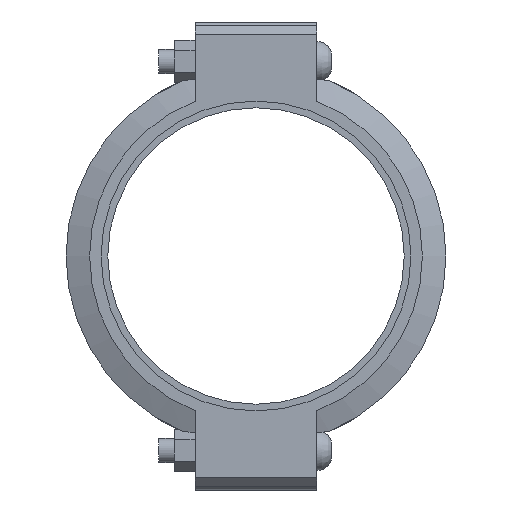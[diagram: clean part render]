
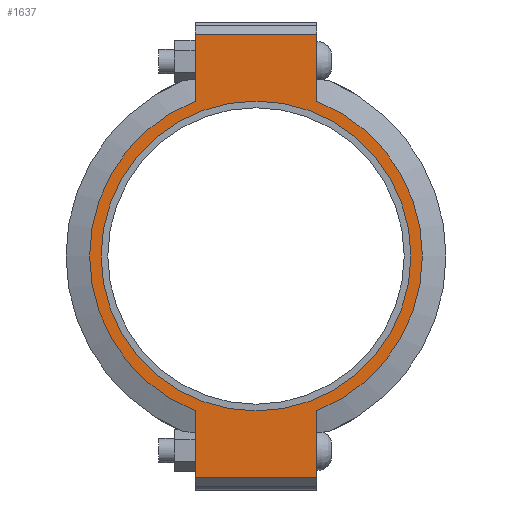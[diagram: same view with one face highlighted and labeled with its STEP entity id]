
A CAD part, left-side view. The second image highlights one B-rep face of the part: STEP entity #1637.
In plain terms, the highlighted planar face has unit normal (-1, 0, 0) as drawn and (0, 0, 1) by its records, which use the part's own axes.
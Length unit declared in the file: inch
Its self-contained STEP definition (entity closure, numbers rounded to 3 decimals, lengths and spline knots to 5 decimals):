
#208=LINE('',#2820,#297);
#219=LINE('',#2871,#308);
#225=LINE('',#2897,#314);
#227=LINE('',#2900,#316);
#228=LINE('',#2905,#317);
#229=LINE('',#2906,#318);
#297=VECTOR('',#2292,0.3937);
#308=VECTOR('',#2323,0.3937);
#314=VECTOR('',#2341,0.3937);
#316=VECTOR('',#2345,0.3937);
#317=VECTOR('',#2350,0.3937);
#318=VECTOR('',#2351,0.3937);
#380=FACE_BOUND('',#557,.T.);
#448=FACE_OUTER_BOUND('',#556,.T.);
#556=EDGE_LOOP('',(#1332,#1333,#1334,#1335,#1336,#1337,#1338,#1339));
#557=EDGE_LOOP('',(#1340));
#639=CIRCLE('',#1856,6.375);
#663=CIRCLE('',#1908,6.84375);
#664=CIRCLE('',#1909,6.84375);
#735=VERTEX_POINT('',#2646);
#776=VERTEX_POINT('',#2817);
#777=VERTEX_POINT('',#2819);
#794=VERTEX_POINT('',#2866);
#795=VERTEX_POINT('',#2870);
#802=VERTEX_POINT('',#2892);
#803=VERTEX_POINT('',#2896);
#804=VERTEX_POINT('',#2902);
#805=VERTEX_POINT('',#2904);
#899=EDGE_CURVE('',#735,#735,#639,.T.);
#956=EDGE_CURVE('',#777,#776,#208,.T.);
#977=EDGE_CURVE('',#795,#794,#219,.T.);
#988=EDGE_CURVE('',#803,#802,#225,.T.);
#990=EDGE_CURVE('',#803,#776,#227,.T.);
#991=EDGE_CURVE('',#802,#804,#663,.T.);
#992=EDGE_CURVE('',#804,#805,#228,.T.);
#993=EDGE_CURVE('',#795,#805,#229,.T.);
#994=EDGE_CURVE('',#794,#777,#664,.T.);
#1332=ORIENTED_EDGE('',*,*,#990,.F.);
#1333=ORIENTED_EDGE('',*,*,#988,.T.);
#1334=ORIENTED_EDGE('',*,*,#991,.T.);
#1335=ORIENTED_EDGE('',*,*,#992,.T.);
#1336=ORIENTED_EDGE('',*,*,#993,.F.);
#1337=ORIENTED_EDGE('',*,*,#977,.T.);
#1338=ORIENTED_EDGE('',*,*,#994,.T.);
#1339=ORIENTED_EDGE('',*,*,#956,.T.);
#1340=ORIENTED_EDGE('',*,*,#899,.T.);
#1477=PLANE('',#1907);
#1637=ADVANCED_FACE('',(#448,#380),#1477,.T.);
#1856=AXIS2_PLACEMENT_3D('',#2648,#2182,#2183);
#1907=AXIS2_PLACEMENT_3D('',#2901,#2346,#2347);
#1908=AXIS2_PLACEMENT_3D('',#2903,#2348,#2349);
#1909=AXIS2_PLACEMENT_3D('',#2907,#2352,#2353);
#2182=DIRECTION('center_axis',(0.,0.,-1.));
#2183=DIRECTION('ref_axis',(-1.,0.,0.));
#2292=DIRECTION('',(-1.,0.,0.));
#2323=DIRECTION('',(-1.,0.,0.));
#2341=DIRECTION('',(1.,0.,0.));
#2345=DIRECTION('',(0.,1.,0.));
#2346=DIRECTION('center_axis',(0.,0.,1.));
#2347=DIRECTION('ref_axis',(1.,0.,0.));
#2348=DIRECTION('center_axis',(0.,0.,1.));
#2349=DIRECTION('ref_axis',(-1.,0.,0.));
#2350=DIRECTION('',(1.,0.,0.));
#2351=DIRECTION('',(0.,-1.,0.));
#2352=DIRECTION('center_axis',(0.,0.,1.));
#2353=DIRECTION('ref_axis',(-1.,0.,0.));
#2646=CARTESIAN_POINT('',(6.375,0.,1.315));
#2648=CARTESIAN_POINT('Origin',(0.,0.,1.315));
#2817=CARTESIAN_POINT('',(-9.125,2.5,1.315));
#2819=CARTESIAN_POINT('',(-6.37079,2.5,1.315));
#2820=CARTESIAN_POINT('',(9.625,2.5,1.315));
#2866=CARTESIAN_POINT('',(6.37079,2.5,1.315));
#2870=CARTESIAN_POINT('',(9.125,2.5,1.315));
#2871=CARTESIAN_POINT('',(9.625,2.5,1.315));
#2892=CARTESIAN_POINT('',(-6.37079,-2.5,1.315));
#2896=CARTESIAN_POINT('',(-9.125,-2.5,1.315));
#2897=CARTESIAN_POINT('',(-9.625,-2.5,1.315));
#2900=CARTESIAN_POINT('',(-9.125,1.25,1.315));
#2901=CARTESIAN_POINT('Origin',(0.,0.,
1.315));
#2902=CARTESIAN_POINT('',(6.37079,-2.5,1.315));
#2903=CARTESIAN_POINT('Origin',(0.,0.,1.315));
#2904=CARTESIAN_POINT('',(9.125,-2.5,1.315));
#2905=CARTESIAN_POINT('',(-9.625,-2.5,1.315));
#2906=CARTESIAN_POINT('',(9.125,-1.25,1.315));
#2907=CARTESIAN_POINT('Origin',(0.,0.,1.315));
